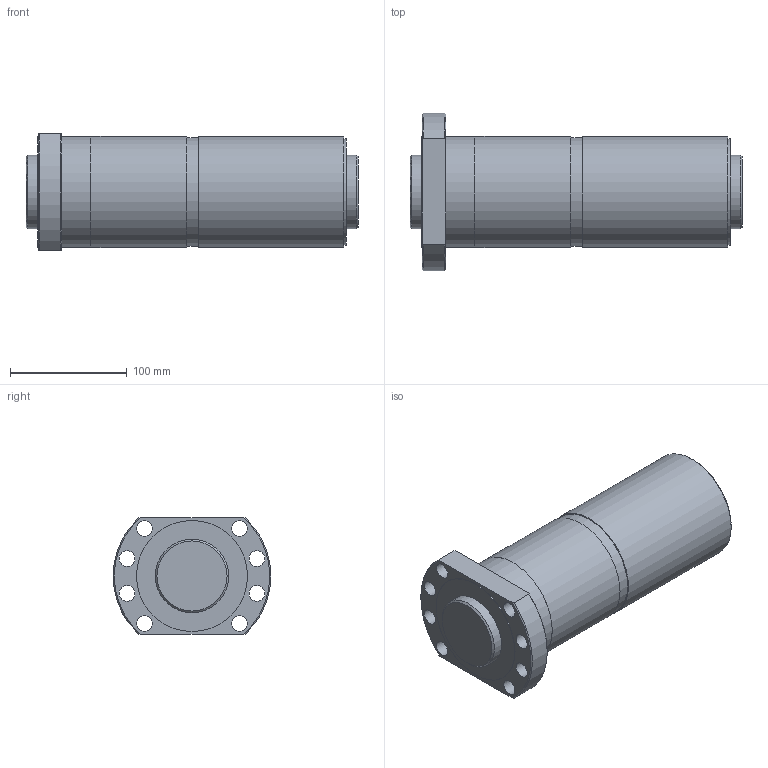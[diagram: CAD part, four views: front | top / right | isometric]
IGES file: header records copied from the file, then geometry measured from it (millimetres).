
Start section: Data from Parasolid IGES Translator 26.0.171, Copyright(c) 2006 Siemens PLM Software. All Rights Reserved.
Global section: file name: SDAN6330VX-4G0+284LC0(0G000).igs; native system: By Siemens PLM Incorporated; preprocessor: XPlus GENERIC/IGES 26.0.171; author: Noname; organization: Noname; date: 20240704.102348; units: millimetre
Bounding box: 284 x 135 x 100 mm (x, y, z)
Surface area: 219335 mm2 (no closed solid volume)
Topology: 0 solids, 0 shells, 41 faces, 198 edges, 175 vertices
Faces by surface type: revolution 28, extrusion 13
